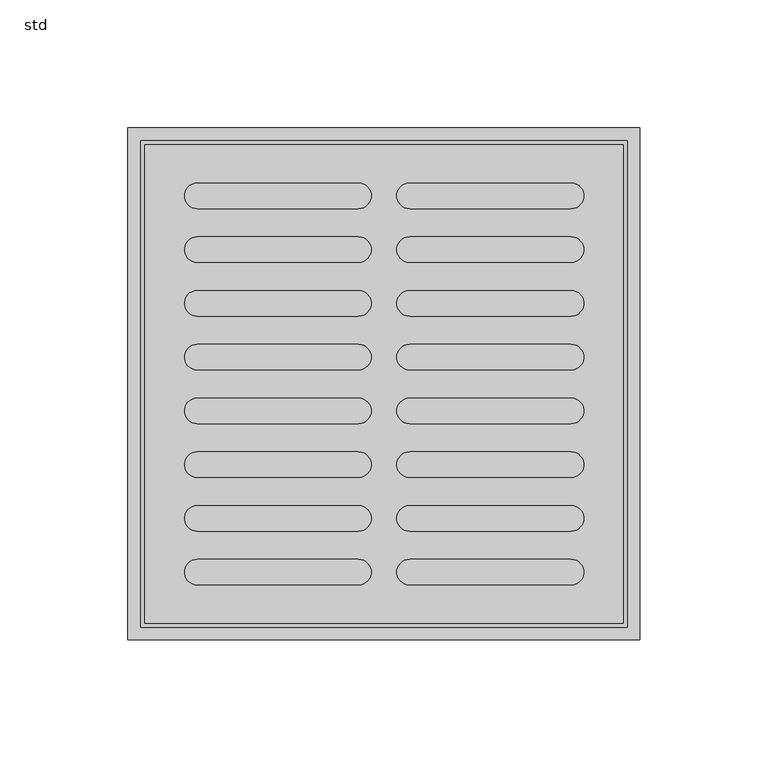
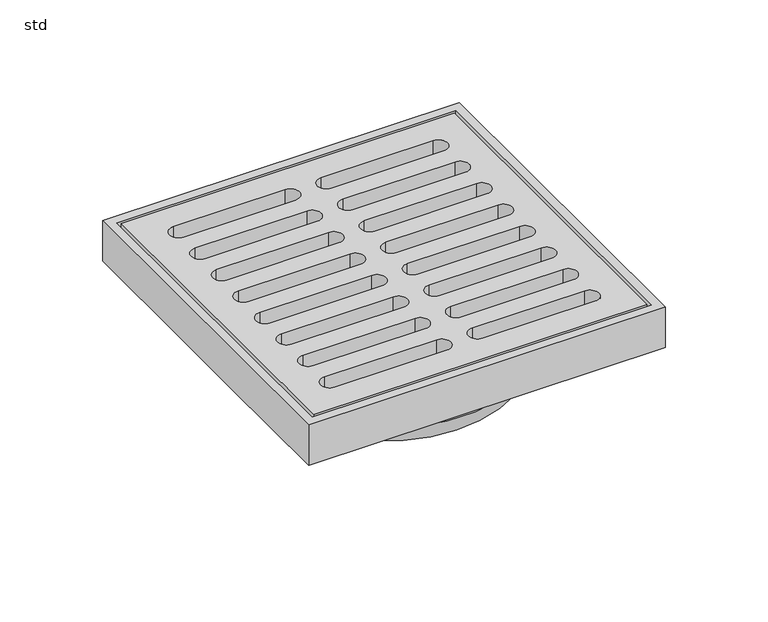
"""IFC4 building model written with IfcOpenShell, lengths in millimetres: sanitary terminal geometry, ZZZ_do_not_use_PF_CI_WPB_top frame with grating for Passavant Jet_ACO : std."""

from ifc_helpers import new_model, si_unit, point, frame, frame_2d, origin, origin_2d, place, context, project, spatial, polyline, circle_curve, trimmed, segment, composite_curve, outline, extrude, faceted_brep, source, transform, mapped, element, save
from ifc_brep_helpers import plane_surface, revolved_surface, advanced_brep


def std_f6b0b17c(model_context):
    return source(origin(), model_context, "Body", "SolidModel", [
        extrude(outline(composite_curve([segment(trimmed(circle_curve(origin_2d(), 70.75), [point((70.75, 0.0))], [point((-70.75, 0.0))], False, "CARTESIAN"), True, "CONTINUOUS"), segment(trimmed(circle_curve(origin_2d(), 70.75), [point((-70.75, 0.0))], [point((70.75, 0.0))], False, "CARTESIAN"), True, "CONTINUOUS")], self_intersect=False)), frame((0.0, 0.0, -10.75), z_axis=(0.0, 0.0, 1.0), x_axis=(1.0, 0.0, 0.0)), (0.0, 0.0, 1.0), 10.75),
        advanced_brep(
        [(75.5, 0.0, 0.0), (-75.5, 0.0, 0.0), (85.75, 0.0, 21.0), (-85.75, 0.0, 21.0)],
        [
            (0, 1, circle_curve(frame((0.0, 0.0, 0.0), z_axis=(0.0, 0.0, -1.0), x_axis=(1.0, 0.0, 0.0)), 75.5)),
            (1, 0, circle_curve(frame((0.0, 0.0, 0.0), z_axis=(0.0, 0.0, -1.0), x_axis=(-1.0, 0.0, 0.0)), 75.5)),
            (2, 3, circle_curve(frame((0.0, 0.0, 21.0), z_axis=(0.0, 0.0, 1.0), x_axis=(-1.0, 0.0, 0.0)), 85.75)),
            (3, 2, circle_curve(frame((0.0, 0.0, 21.0), z_axis=(0.0, 0.0, 1.0), x_axis=(1.0, 0.0, 0.0)), 85.75)),
            (2, 0),
            (1, 3),
        ],
        [
            plane_surface(frame((0.0, 0.0, 0.0), z_axis=(0.0, 0.0, -1.0), x_axis=(0.0, 1.0, 0.0))),
            plane_surface(frame((0.0, 0.0, 21.0), z_axis=(0.0, 0.0, 1.0), x_axis=(0.0, 1.0, 0.0))),
            revolved_surface(polyline([(-75.49999999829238, 0.0, 0.0), (-85.75, 0.0, 21.0)]), (0.0, 0.0, -154.6829268), (0.0, 0.0, 1.0)),
            revolved_surface(polyline([(75.49999999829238, 0.0, 0.0), (85.75, 0.0, 21.0)]), (0.0, 0.0, -154.6829268), (0.0, 0.0, 1.0)),
        ],
        [
            (0, [[1, 2]]),
            (1, [[3, 4]]),
            (2, [[-3, 5, -2, 6]]),
            (3, [[-4, -6, -1, -5]]),
        ],
    ),
        faceted_brep([(95.0, -95.0, 26.0), (95.0, -29.5, 26.0), (95.0, 29.5, 26.0), (95.0, 95.0, 26.0), (29.5, 95.0, 26.0), (-29.5, 95.0, 26.0), (-95.0, 95.0, 26.0), (-95.0, 29.5, 26.0), (-95.0, -29.5, 26.0), (-95.0, -95.0, 26.0), (-29.5, -95.0, 26.0), (29.5, -95.0, 26.0), (100.0, -24.5, 21.0), (100.0, -100.0, 21.0), (24.5, -100.0, 21.0), (-24.5, -100.0, 21.0), (-100.0, -100.0, 21.0), (-100.0, -24.5, 21.0), (-100.0, 24.5, 21.0), (-100.0, 100.0, 21.0), (-24.5, 100.0, 21.0), (24.5, 100.0, 21.0), (100.0, 100.0, 21.0), (100.0, 24.5, 21.0), (-100.0, 100.0, 45.0), (100.0, 100.0, 45.0), (-100.0, -100.0, 45.0), (100.0, -100.0, 45.0), (95.0, 95.0, 45.0), (95.0, -95.0, 45.0), (-95.0, -95.0, 45.0), (-95.0, 95.0, 45.0)], [[[0, 1, 2, 3, 4, 5, 6, 7, 8, 9, 10, 11]], [[12, 13, 14, 15, 16, 17, 18, 19, 20, 21, 22, 23]], [[24, 25, 22, 21, 20, 19]], [[26, 24, 19, 18, 17, 16]], [[27, 26, 16, 15, 14, 13]], [[25, 27, 13, 12, 23, 22]], [[25, 24, 26, 27], [28, 29, 30, 31]], [[29, 28, 3, 2, 1, 0]], [[30, 29, 0, 11, 10, 9]], [[31, 30, 9, 8, 7, 6]], [[28, 31, 6, 5, 4, 3]]]),
        extrude(outline(polyline([(93.5, 93.5), (93.5, -93.5), (-93.5, -93.5), (-93.5, 93.5), (93.5, 93.5)]), holes=[composite_curve([segment(trimmed(circle_curve(frame_2d((10.0, -73.5)), 5.0), [point((10.0, -68.5))], [point((10.0, -78.5))], True, "CARTESIAN"), True, "CONTINUOUS"), segment(polyline([(10.0, -78.5), (73.0476533, -78.5)]), True, "CONTINUOUS"), segment(trimmed(circle_curve(frame_2d((73.0476533, -73.5)), 5.0), [point((73.0476533, -78.5))], [point((73.0476533, -68.5))], True, "CARTESIAN"), True, "CONTINUOUS"), segment(polyline([(73.0476533, -68.5), (10.0, -68.5)]), True, "CONTINUOUS")], self_intersect=False), composite_curve([segment(polyline([(10.0, -57.5), (73.0476533, -57.5)]), True, "CONTINUOUS"), segment(trimmed(circle_curve(frame_2d((73.0476533, -52.5)), 5.0), [point((73.0476533, -57.5))], [point((73.0476533, -47.5))], True, "CARTESIAN"), True, "CONTINUOUS"), segment(polyline([(73.0476533, -47.5), (10.0, -47.5)]), True, "CONTINUOUS"), segment(trimmed(circle_curve(frame_2d((10.0, -52.5)), 5.0), [point((10.0, -47.5))], [point((10.0, -57.5))], True, "CARTESIAN"), True, "CONTINUOUS")], self_intersect=False), composite_curve([segment(trimmed(circle_curve(frame_2d((10.0, 52.5)), 5.0), [point((10.0, 57.5))], [point((10.0, 47.5))], True, "CARTESIAN"), True, "CONTINUOUS"), segment(polyline([(10.0, 47.5), (73.0476533, 47.5)]), True, "CONTINUOUS"), segment(trimmed(circle_curve(frame_2d((73.0476533, 52.5)), 5.0), [point((73.0476533, 47.5))], [point((73.0476533, 57.5))], True, "CARTESIAN"), True, "CONTINUOUS"), segment(polyline([(73.0476533, 57.5), (10.0, 57.5)]), True, "CONTINUOUS")], self_intersect=False), composite_curve([segment(polyline([(10.0, 68.5), (73.0476533, 68.5)]), True, "CONTINUOUS"), segment(trimmed(circle_curve(frame_2d((73.0476533, 73.5)), 5.0), [point((73.0476533, 68.5))], [point((73.0476533, 78.5))], True, "CARTESIAN"), True, "CONTINUOUS"), segment(polyline([(73.0476533, 78.5), (10.0, 78.5)]), True, "CONTINUOUS"), segment(trimmed(circle_curve(frame_2d((10.0, 73.5)), 5.0), [point((10.0, 78.5))], [point((10.0, 68.5))], True, "CARTESIAN"), True, "CONTINUOUS")], self_intersect=False), composite_curve([segment(polyline([(10.0, -36.5), (73.0476533, -36.5)]), True, "CONTINUOUS"), segment(trimmed(circle_curve(frame_2d((73.0476533, -31.5)), 5.0), [point((73.0476533, -36.5))], [point((73.0476533, -26.5))], True, "CARTESIAN"), True, "CONTINUOUS"), segment(polyline([(73.0476533, -26.5), (10.0, -26.5)]), True, "CONTINUOUS"), segment(trimmed(circle_curve(frame_2d((10.0, -31.5)), 5.0), [point((10.0, -26.5))], [point((10.0, -36.5))], True, "CARTESIAN"), True, "CONTINUOUS")], self_intersect=False), composite_curve([segment(polyline([(10.0, -15.5), (73.0476533, -15.5)]), True, "CONTINUOUS"), segment(trimmed(circle_curve(frame_2d((73.0476533, -10.5)), 5.0), [point((73.0476533, -15.5))], [point((73.0476533, -5.5))], True, "CARTESIAN"), True, "CONTINUOUS"), segment(polyline([(73.0476533, -5.5), (10.0, -5.5)]), True, "CONTINUOUS"), segment(trimmed(circle_curve(frame_2d((10.0, -10.5)), 5.0), [point((10.0, -5.5))], [point((10.0, -15.5))], True, "CARTESIAN"), True, "CONTINUOUS")], self_intersect=False), composite_curve([segment(polyline([(10.0, 5.5), (73.0476533, 5.5)]), True, "CONTINUOUS"), segment(trimmed(circle_curve(frame_2d((73.0476533, 10.5)), 5.0), [point((73.0476533, 5.5))], [point((73.0476533, 15.5))], True, "CARTESIAN"), True, "CONTINUOUS"), segment(polyline([(73.0476533, 15.5), (10.0, 15.5)]), True, "CONTINUOUS"), segment(trimmed(circle_curve(frame_2d((10.0, 10.5)), 5.0), [point((10.0, 15.5))], [point((10.0, 5.5))], True, "CARTESIAN"), True, "CONTINUOUS")], self_intersect=False), composite_curve([segment(polyline([(10.0, 26.5), (73.0476533, 26.5)]), True, "CONTINUOUS"), segment(trimmed(circle_curve(frame_2d((73.0476533, 31.5)), 5.0), [point((73.0476533, 26.5))], [point((73.0476533, 36.5))], True, "CARTESIAN"), True, "CONTINUOUS"), segment(polyline([(73.0476533, 36.5), (10.0, 36.5)]), True, "CONTINUOUS"), segment(trimmed(circle_curve(frame_2d((10.0, 31.5)), 5.0), [point((10.0, 36.5))], [point((10.0, 26.5))], True, "CARTESIAN"), True, "CONTINUOUS")], self_intersect=False), composite_curve([segment(trimmed(circle_curve(frame_2d((-72.9516297, 73.5)), 5.0), [point((-72.9516297, 78.5))], [point((-72.9516297, 68.5))], True, "CARTESIAN"), True, "CONTINUOUS"), segment(polyline([(-72.9516297, 68.5), (-10.0, 68.5)]), True, "CONTINUOUS"), segment(trimmed(circle_curve(frame_2d((-10.0, 73.5)), 5.0), [point((-10.0, 68.5))], [point((-10.0, 78.5))], True, "CARTESIAN"), True, "CONTINUOUS"), segment(polyline([(-10.0, 78.5), (-72.9516297, 78.5)]), True, "CONTINUOUS")], self_intersect=False), composite_curve([segment(trimmed(circle_curve(frame_2d((-72.9516297, 52.5)), 5.0), [point((-72.9516297, 57.5))], [point((-72.9516297, 47.5))], True, "CARTESIAN"), True, "CONTINUOUS"), segment(polyline([(-72.9516297, 47.5), (-10.0, 47.5)]), True, "CONTINUOUS"), segment(trimmed(circle_curve(frame_2d((-10.0, 52.5)), 5.0), [point((-10.0, 47.5))], [point((-10.0, 57.5))], True, "CARTESIAN"), True, "CONTINUOUS"), segment(polyline([(-10.0, 57.5), (-72.9516297, 57.5)]), True, "CONTINUOUS")], self_intersect=False), composite_curve([segment(polyline([(-72.9516297, 26.5), (-10.0, 26.5)]), True, "CONTINUOUS"), segment(trimmed(circle_curve(frame_2d((-10.0, 31.5)), 5.0), [point((-10.0, 26.5))], [point((-10.0, 36.5))], True, "CARTESIAN"), True, "CONTINUOUS"), segment(polyline([(-10.0, 36.5), (-72.9516297, 36.5)]), True, "CONTINUOUS"), segment(trimmed(circle_curve(frame_2d((-72.9516297, 31.5)), 5.0), [point((-72.9516297, 36.5))], [point((-72.9516297, 26.5))], True, "CARTESIAN"), True, "CONTINUOUS")], self_intersect=False), composite_curve([segment(trimmed(circle_curve(frame_2d((-72.9516297, 10.5)), 5.0), [point((-72.9516297, 15.5))], [point((-72.9516297, 5.5))], True, "CARTESIAN"), True, "CONTINUOUS"), segment(polyline([(-72.9516297, 5.5), (-10.0, 5.5)]), True, "CONTINUOUS"), segment(trimmed(circle_curve(frame_2d((-10.0, 10.5)), 5.0), [point((-10.0, 5.5))], [point((-10.0, 15.5))], True, "CARTESIAN"), True, "CONTINUOUS"), segment(polyline([(-10.0, 15.5), (-72.9516297, 15.5)]), True, "CONTINUOUS")], self_intersect=False), composite_curve([segment(trimmed(circle_curve(frame_2d((-72.9516297, -10.5)), 5.0), [point((-72.9516297, -5.5))], [point((-72.9516297, -15.5))], True, "CARTESIAN"), True, "CONTINUOUS"), segment(polyline([(-72.9516297, -15.5), (-10.0, -15.5)]), True, "CONTINUOUS"), segment(trimmed(circle_curve(frame_2d((-10.0, -10.5)), 5.0), [point((-10.0, -15.5))], [point((-10.0, -5.5))], True, "CARTESIAN"), True, "CONTINUOUS"), segment(polyline([(-10.0, -5.5), (-72.9516297, -5.5)]), True, "CONTINUOUS")], self_intersect=False), composite_curve([segment(trimmed(circle_curve(frame_2d((-72.9516297, -31.5)), 5.0), [point((-72.9516297, -26.5))], [point((-72.9516297, -36.5))], True, "CARTESIAN"), True, "CONTINUOUS"), segment(polyline([(-72.9516297, -36.5), (-10.0, -36.5)]), True, "CONTINUOUS"), segment(trimmed(circle_curve(frame_2d((-10.0, -31.5)), 5.0), [point((-10.0, -36.5))], [point((-10.0, -26.5))], True, "CARTESIAN"), True, "CONTINUOUS"), segment(polyline([(-10.0, -26.5), (-72.9516297, -26.5)]), True, "CONTINUOUS")], self_intersect=False), composite_curve([segment(trimmed(circle_curve(frame_2d((-72.9516297, -52.5)), 5.0), [point((-72.9516297, -47.5))], [point((-72.9516297, -57.5))], True, "CARTESIAN"), True, "CONTINUOUS"), segment(polyline([(-72.9516297, -57.5), (-10.0, -57.5)]), True, "CONTINUOUS"), segment(trimmed(circle_curve(frame_2d((-10.0, -52.5)), 5.0), [point((-10.0, -57.5))], [point((-10.0, -47.5))], True, "CARTESIAN"), True, "CONTINUOUS"), segment(polyline([(-10.0, -47.5), (-72.9516297, -47.5)]), True, "CONTINUOUS")], self_intersect=False), composite_curve([segment(trimmed(circle_curve(frame_2d((-72.9516297, -73.5)), 5.0), [point((-72.9516297, -68.5))], [point((-72.9516297, -78.5))], True, "CARTESIAN"), True, "CONTINUOUS"), segment(polyline([(-72.9516297, -78.5), (-10.0, -78.5)]), True, "CONTINUOUS"), segment(trimmed(circle_curve(frame_2d((-10.0, -73.5)), 5.0), [point((-10.0, -78.5))], [point((-10.0, -68.5))], True, "CARTESIAN"), True, "CONTINUOUS"), segment(polyline([(-10.0, -68.5), (-72.9516297, -68.5)]), True, "CONTINUOUS")], self_intersect=False)]), frame((0.0, 0.0, 26.0), z_axis=(0.0, 0.0, 1.0), x_axis=(1.0, 0.0, 0.0)), (0.0, 0.0, 1.0), 19.0),
    ])


if __name__ == "__main__":
    model = new_model("IFC4")
    model_context = context("Model", 3, world=origin())
    ifc_project = project(units=[si_unit("LENGTHUNIT", "METRE", prefix="MILLI")], contexts=[model_context])
    site = spatial("IfcSite", under=ifc_project)
    building = spatial("IfcBuilding", under=site)
    placement = place(None, origin())
    std_shape = std_f6b0b17c(model_context)
    element("IfcSanitaryTerminal", 1, ObjectType="ZZZ_do_not_use_PF_CI_WPB_top frame with grating for Passavant Jet_ACO : std", at=placement, inside=building, context=model_context, shape_type="MappedRepresentation", body=[
        mapped(std_shape, transform((0.0, 0.0, 0.0), x_axis=(1.0, 0.0, 0.0), y_axis=(0.0, 1.0, 0.0), z_axis=(0.0, 0.0, 1.0))),
    ])
    save(model, "model.ifc")
